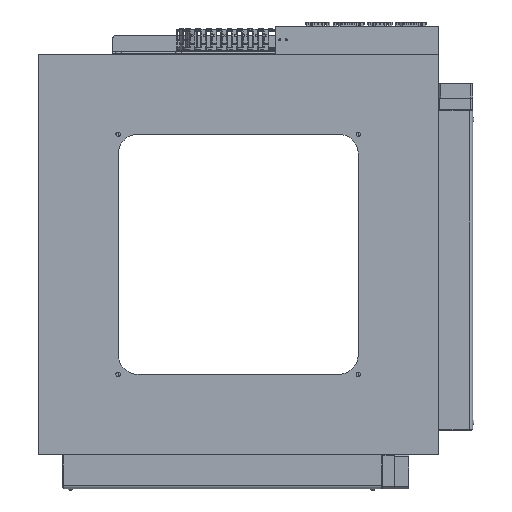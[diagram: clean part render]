
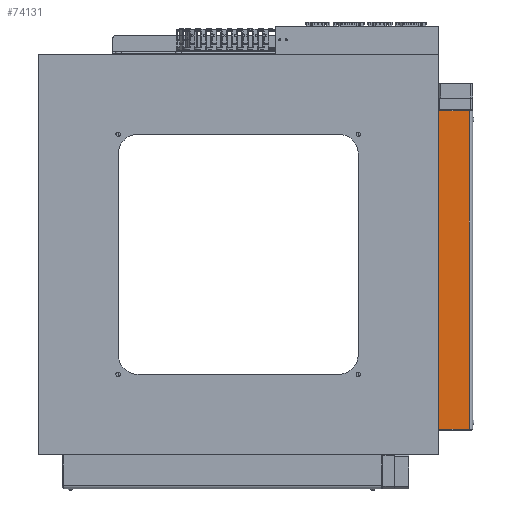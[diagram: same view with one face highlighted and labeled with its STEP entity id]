
A CAD part, front view. The second image highlights one B-rep face of the part: STEP entity #74131.
In plain terms, the highlighted planar face has unit normal (0, -1, 0).
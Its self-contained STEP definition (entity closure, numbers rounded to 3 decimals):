
#2116 = CARTESIAN_POINT ( 'NONE',  ( 250.5, 0.9, -218.75 ) ) ;
#2622 = PLANE ( 'NONE',  #67877 ) ;
#2780 = VERTEX_POINT ( 'NONE', #24520 ) ;
#9501 = CARTESIAN_POINT ( 'NONE',  ( 288.85, 0.9, -218.75 ) ) ;
#10892 = VECTOR ( 'NONE', #15002, 1000. ) ;
#11924 = VERTEX_POINT ( 'NONE', #76615 ) ;
#14858 = DIRECTION ( 'NONE',  ( 0., -1., 0. ) ) ;
#15002 = DIRECTION ( 'NONE',  ( -1., 0., 0. ) ) ;
#20386 = EDGE_CURVE ( 'NONE', #11924, #80413, #24399, .T. ) ;
#20879 = VERTEX_POINT ( 'NONE', #2116 ) ;
#24399 = LINE ( 'NONE', #26916, #10892 ) ;
#24520 = CARTESIAN_POINT ( 'NONE',  ( 288.85, 0.9, -218.75 ) ) ;
#26916 = CARTESIAN_POINT ( 'NONE',  ( 288.85, 0.9, 179.25 ) ) ;
#36886 = VECTOR ( 'NONE', #59399, 1000. ) ;
#39418 = EDGE_CURVE ( 'NONE', #80413, #20879, #72782, .T. ) ;
#42931 = ORIENTED_EDGE ( 'NONE', *, *, #39418, .T. ) ;
#46228 = FACE_OUTER_BOUND ( 'NONE', #54324, .T. ) ;
#47891 = DIRECTION ( 'NONE',  ( 0., 0., -1. ) ) ;
#47962 = LINE ( 'NONE', #77360, #67322 ) ;
#49470 = EDGE_CURVE ( 'NONE', #11924, #2780, #47962, .T. ) ;
#51915 = CARTESIAN_POINT ( 'NONE',  ( 288.85, 0.9, 179.25 ) ) ;
#53028 = DIRECTION ( 'NONE',  ( 1., 0., 0. ) ) ;
#53120 = ORIENTED_EDGE ( 'NONE', *, *, #72732, .F. ) ;
#53915 = CARTESIAN_POINT ( 'NONE',  ( 250.5, 0.9, 179.25 ) ) ;
#54324 = EDGE_LOOP ( 'NONE', ( #53120, #55156, #71953, #42931 ) ) ;
#55156 = ORIENTED_EDGE ( 'NONE', *, *, #49470, .F. ) ;
#57264 = LINE ( 'NONE', #9501, #36886 ) ;
#59399 = DIRECTION ( 'NONE',  ( -1., 0., 0. ) ) ;
#64768 = DIRECTION ( 'NONE',  ( 0., 0., -1. ) ) ;
#65515 = CARTESIAN_POINT ( 'NONE',  ( 250.5, 0.9, 179.25 ) ) ;
#67322 = VECTOR ( 'NONE', #64768, 1000. ) ;
#67877 = AXIS2_PLACEMENT_3D ( 'NONE', #51915, #14858, #53028 ) ;
#70764 = VECTOR ( 'NONE', #47891, 1000. ) ;
#71953 = ORIENTED_EDGE ( 'NONE', *, *, #20386, .T. ) ;
#72732 = EDGE_CURVE ( 'NONE', #2780, #20879, #57264, .T. ) ;
#72782 = LINE ( 'NONE', #65515, #70764 ) ;
#74131 = ADVANCED_FACE ( 'NONE', ( #46228 ), #2622, .T. ) ;
#76615 = CARTESIAN_POINT ( 'NONE',  ( 288.85, 0.9, 179.25 ) ) ;
#77360 = CARTESIAN_POINT ( 'NONE',  ( 288.85, 0.9, 179.25 ) ) ;
#80413 = VERTEX_POINT ( 'NONE', #53915 ) ;
